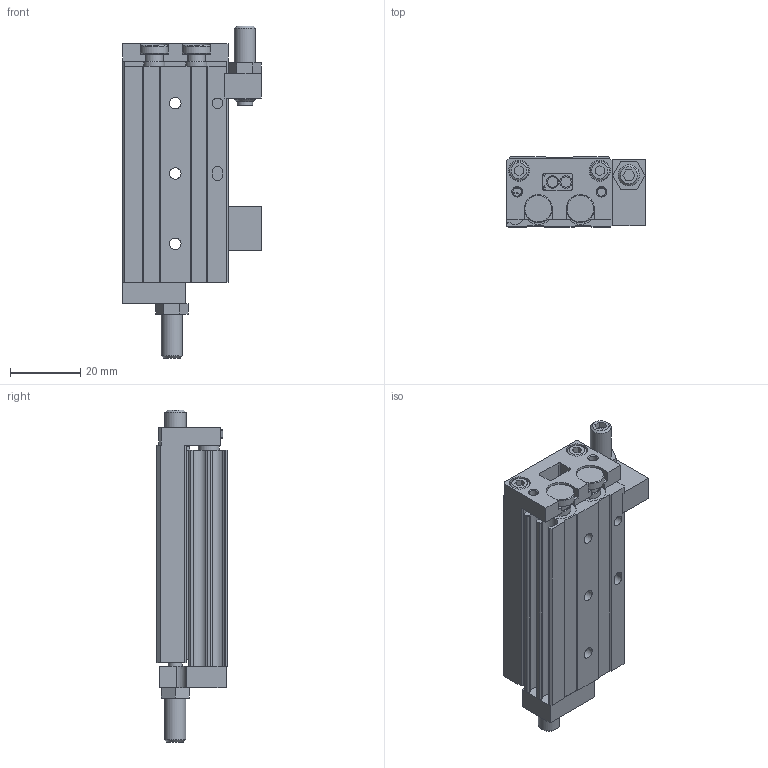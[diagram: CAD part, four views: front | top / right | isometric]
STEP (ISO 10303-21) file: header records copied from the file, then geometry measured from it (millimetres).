
FILE_DESCRIPTION( ( 'STEP AP214' ), '1' );
FILE_NAME( 'C:/Users/EMC02301/Desktop/ELSL图纸/ELSL6X30-S-A.stp', '2026-08-05T06:50:59', ( 'License CC BY-ND 4.0' ), ( 'CADENAS' ), ' ', 'PARTsolutions', ' ' );
FILE_SCHEMA( ( 'AUTOMOTIVE_DESIGN { 1 0 10303 214 1 1 1 1 }' ) );
Length unit declared in the file: millimetre
Products named in the file (6): ELSL6X30-S-A(0)(); _ELSL6X30-S-A(HX-07)(HX-07-1)(0-body); _ELSL6X30-S-A(0-rod); _FJ-ELS6-A; _FJ-ELSL6-A-(AS); _FJ-ELSL6-(AF)
Assembly tree (5 placements, depth 2):
  ELSL6X30-S-A(0)()
    _ELSL6X30-S-A(HX-07)(HX-07-1)(0-body)
    _ELSL6X30-S-A(0-rod)
    _FJ-ELS6-A
    _FJ-ELSL6-A-(AS)
    _FJ-ELSL6-(AF)
Bounding box: 39.5 x 20 x 94.5 mm (x, y, z)
Volume: 37608.5 mm3; surface area: 23464.6 mm2
Topology: 5 solids, 5 shells, 461 faces, 1062 edges, 692 vertices
Faces by surface type: plane 318, cylinder 110, cone 31, torus 2
Full cylindrical faces by diameter (mm): 2.013 x8, 2.459 x8, 3 x14, 3.242 x3, 3.3 x3, 3.5 x8, 3.767 x2, 4 x1, 4.134 x2, 4.167 x2, 4.267 x2, 4.4 x5, 4.667 x2, 4.8 x4, 5.5 x2, 6 x11, 6.5 x6, 7.9 x2, 9 x2
Entity records: 16027 total; most frequent: DIRECTION 2117, CARTESIAN_POINT 2063, ORIENTED_EDGE 1846, EDGE_CURVE 923, AXIS2_PLACEMENT_3D 727, EDGE_LOOP 690, VERTEX_POINT 673, LINE 663
